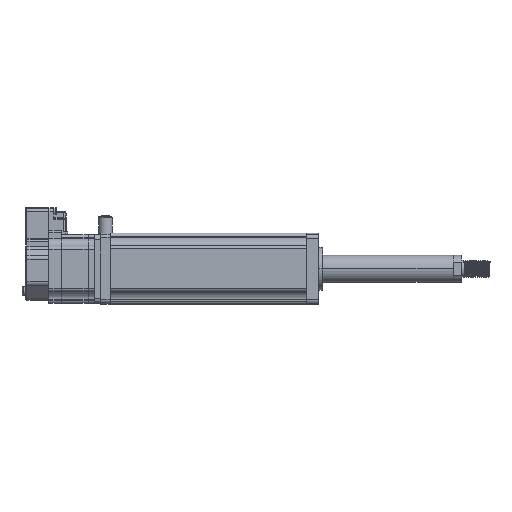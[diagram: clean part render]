
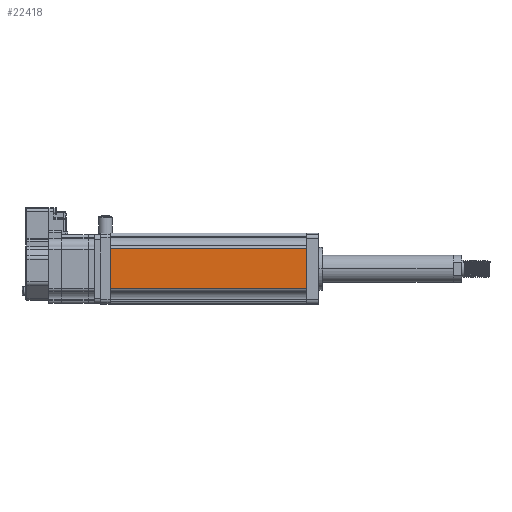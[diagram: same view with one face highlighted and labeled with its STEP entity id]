
A CAD part, front view. The second image highlights one B-rep face of the part: STEP entity #22418.
In plain terms, the highlighted planar face has unit normal (0, -1, 0).
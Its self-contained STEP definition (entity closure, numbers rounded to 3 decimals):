
#20561 = PLANE('',#20562);
#20562 = AXIS2_PLACEMENT_3D('',#20563,#20564,#20565);
#20563 = CARTESIAN_POINT('',(604.,20.655,
    -44.316));
#20564 = DIRECTION('',(-1.,0.,0.));
#20565 = DIRECTION('',(0.,-1.,0.));
#20622 = PLANE('',#20623);
#20623 = AXIS2_PLACEMENT_3D('',#20624,#20625,#20626);
#20624 = CARTESIAN_POINT('',(764.,20.655,
    -44.316));
#20625 = DIRECTION('',(-1.,0.,0.));
#20626 = DIRECTION('',(0.,-1.,0.));
#21004 = VERTEX_POINT('',#21005);
#21005 = CARTESIAN_POINT('',(764.,-37.345,
    -31.316));
#21013 = CYLINDRICAL_SURFACE('',#21014,2.5);
#21014 = AXIS2_PLACEMENT_3D('',#21015,#21016,#21017);
#21015 = CARTESIAN_POINT('',(604.,-34.845,
    -31.316));
#21016 = DIRECTION('',(-1.,0.,0.));
#21017 = DIRECTION('',(0.,-1.,0.));
#21032 = EDGE_CURVE('',#21004,#21033,#21035,.T.);
#21033 = VERTEX_POINT('',#21034);
#21034 = CARTESIAN_POINT('',(604.,-37.345,
    -31.316));
#21035 = SURFACE_CURVE('',#21036,(#21040,#21047),.PCURVE_S1.);
#21036 = LINE('',#21037,#21038);
#21037 = CARTESIAN_POINT('',(684.,-37.345,
    -31.316));
#21038 = VECTOR('',#21039,1.);
#21039 = DIRECTION('',(-1.,0.,0.));
#21040 = PCURVE('',#21013,#21041);
#21041 = DEFINITIONAL_REPRESENTATION('',(#21042),#21046);
#21042 = LINE('',#21043,#21044);
#21043 = CARTESIAN_POINT('',(6.283,-80.));
#21044 = VECTOR('',#21045,1.);
#21045 = DIRECTION('',(0.,1.));
#21046 = ( GEOMETRIC_REPRESENTATION_CONTEXT(2) 
PARAMETRIC_REPRESENTATION_CONTEXT() REPRESENTATION_CONTEXT('2D SPACE',''
  ) );
#21047 = PCURVE('',#21048,#21053);
#21048 = PLANE('',#21049);
#21049 = AXIS2_PLACEMENT_3D('',#21050,#21051,#21052);
#21050 = CARTESIAN_POINT('',(764.,-37.345,
    -31.316));
#21051 = DIRECTION('',(0.,1.,0.));
#21052 = DIRECTION('',(-1.,0.,0.));
#21053 = DEFINITIONAL_REPRESENTATION('',(#21054),#21058);
#21054 = LINE('',#21055,#21056);
#21055 = CARTESIAN_POINT('',(80.,0.));
#21056 = VECTOR('',#21057,1.);
#21057 = DIRECTION('',(1.,0.));
#21058 = ( GEOMETRIC_REPRESENTATION_CONTEXT(2) 
PARAMETRIC_REPRESENTATION_CONTEXT() REPRESENTATION_CONTEXT('2D SPACE',''
  ) );
#21120 = VERTEX_POINT('',#21121);
#21121 = CARTESIAN_POINT('',(604.,-37.345,
    0.684));
#21129 = CYLINDRICAL_SURFACE('',#21130,2.5);
#21130 = AXIS2_PLACEMENT_3D('',#21131,#21132,#21133);
#21131 = CARTESIAN_POINT('',(764.,-34.845,
    0.684));
#21132 = DIRECTION('',(1.,0.,0.));
#21133 = DIRECTION('',(0.,-1.,0.));
#21152 = EDGE_CURVE('',#21120,#21153,#21155,.T.);
#21153 = VERTEX_POINT('',#21154);
#21154 = CARTESIAN_POINT('',(764.,-37.345,
    0.684));
#21155 = SURFACE_CURVE('',#21156,(#21160,#21167),.PCURVE_S1.);
#21156 = LINE('',#21157,#21158);
#21157 = CARTESIAN_POINT('',(684.,-37.345,
    0.684));
#21158 = VECTOR('',#21159,1.);
#21159 = DIRECTION('',(1.,0.,0.));
#21160 = PCURVE('',#21129,#21161);
#21161 = DEFINITIONAL_REPRESENTATION('',(#21162),#21166);
#21162 = LINE('',#21163,#21164);
#21163 = CARTESIAN_POINT('',(6.283,-80.));
#21164 = VECTOR('',#21165,1.);
#21165 = DIRECTION('',(0.,1.));
#21166 = ( GEOMETRIC_REPRESENTATION_CONTEXT(2) 
PARAMETRIC_REPRESENTATION_CONTEXT() REPRESENTATION_CONTEXT('2D SPACE',''
  ) );
#21167 = PCURVE('',#21048,#21168);
#21168 = DEFINITIONAL_REPRESENTATION('',(#21169),#21173);
#21169 = LINE('',#21170,#21171);
#21170 = CARTESIAN_POINT('',(80.,32.));
#21171 = VECTOR('',#21172,1.);
#21172 = DIRECTION('',(-1.,0.));
#21173 = ( GEOMETRIC_REPRESENTATION_CONTEXT(2) 
PARAMETRIC_REPRESENTATION_CONTEXT() REPRESENTATION_CONTEXT('2D SPACE',''
  ) );
#21876 = EDGE_CURVE('',#21153,#21004,#21877,.T.);
#21877 = SURFACE_CURVE('',#21878,(#21882,#21889),.PCURVE_S1.);
#21878 = LINE('',#21879,#21880);
#21879 = CARTESIAN_POINT('',(764.,-37.345,
    -15.316));
#21880 = VECTOR('',#21881,1.);
#21881 = DIRECTION('',(0.,0.,-1.));
#21882 = PCURVE('',#20622,#21883);
#21883 = DEFINITIONAL_REPRESENTATION('',(#21884),#21888);
#21884 = LINE('',#21885,#21886);
#21885 = CARTESIAN_POINT('',(58.,29.));
#21886 = VECTOR('',#21887,1.);
#21887 = DIRECTION('',(0.,-1.));
#21888 = ( GEOMETRIC_REPRESENTATION_CONTEXT(2) 
PARAMETRIC_REPRESENTATION_CONTEXT() REPRESENTATION_CONTEXT('2D SPACE',''
  ) );
#21889 = PCURVE('',#21048,#21890);
#21890 = DEFINITIONAL_REPRESENTATION('',(#21891),#21895);
#21891 = LINE('',#21892,#21893);
#21892 = CARTESIAN_POINT('',(0.,16.));
#21893 = VECTOR('',#21894,1.);
#21894 = DIRECTION('',(0.,-1.));
#21895 = ( GEOMETRIC_REPRESENTATION_CONTEXT(2) 
PARAMETRIC_REPRESENTATION_CONTEXT() REPRESENTATION_CONTEXT('2D SPACE',''
  ) );
#22175 = EDGE_CURVE('',#21033,#21120,#22176,.T.);
#22176 = SURFACE_CURVE('',#22177,(#22181,#22188),.PCURVE_S1.);
#22177 = LINE('',#22178,#22179);
#22178 = CARTESIAN_POINT('',(604.,-37.345,
    -15.316));
#22179 = VECTOR('',#22180,1.);
#22180 = DIRECTION('',(0.,0.,1.));
#22181 = PCURVE('',#20561,#22182);
#22182 = DEFINITIONAL_REPRESENTATION('',(#22183),#22187);
#22183 = LINE('',#22184,#22185);
#22184 = CARTESIAN_POINT('',(58.,29.));
#22185 = VECTOR('',#22186,1.);
#22186 = DIRECTION('',(0.,1.));
#22187 = ( GEOMETRIC_REPRESENTATION_CONTEXT(2) 
PARAMETRIC_REPRESENTATION_CONTEXT() REPRESENTATION_CONTEXT('2D SPACE',''
  ) );
#22188 = PCURVE('',#21048,#22189);
#22189 = DEFINITIONAL_REPRESENTATION('',(#22190),#22194);
#22190 = LINE('',#22191,#22192);
#22191 = CARTESIAN_POINT('',(160.,16.));
#22192 = VECTOR('',#22193,1.);
#22193 = DIRECTION('',(0.,1.));
#22194 = ( GEOMETRIC_REPRESENTATION_CONTEXT(2) 
PARAMETRIC_REPRESENTATION_CONTEXT() REPRESENTATION_CONTEXT('2D SPACE',''
  ) );
#22418 = ADVANCED_FACE('',(#22419),#21048,.F.);
#22419 = FACE_BOUND('',#22420,.T.);
#22420 = EDGE_LOOP('',(#22421,#22422,#22423,#22424));
#22421 = ORIENTED_EDGE('',*,*,#21032,.F.);
#22422 = ORIENTED_EDGE('',*,*,#21876,.F.);
#22423 = ORIENTED_EDGE('',*,*,#21152,.F.);
#22424 = ORIENTED_EDGE('',*,*,#22175,.F.);
